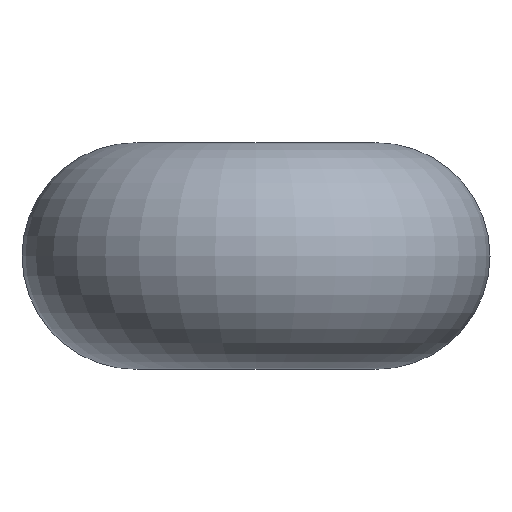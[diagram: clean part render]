
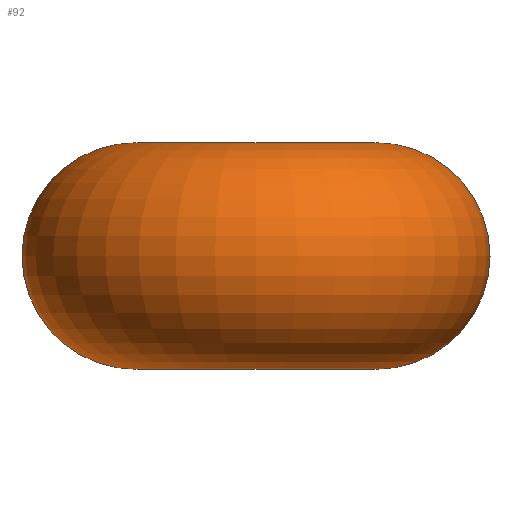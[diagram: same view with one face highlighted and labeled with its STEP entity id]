
A CAD part, left-side view. The second image highlights one B-rep face of the part: STEP entity #92.
In plain terms, the highlighted toroidal (fillet/blend) face has major radius 4 mm and minor radius 3.75 mm.
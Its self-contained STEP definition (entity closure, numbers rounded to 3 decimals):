
#19 = VERTEX_POINT ( 'NONE', #152 ) ;
#62 = EDGE_CURVE ( 'NONE', #19, #65, #286, .T. ) ;
#64 = EDGE_CURVE ( 'NONE', #65, #66, #277, .T. ) ;
#65 = VERTEX_POINT ( 'NONE', #272 ) ;
#66 = VERTEX_POINT ( 'NONE', #271 ) ;
#86 = VERTEX_POINT ( 'NONE', #329 ) ;
#88 = EDGE_CURVE ( 'NONE', #86, #66, #327, .T. ) ;
#91 = EDGE_CURVE ( 'NONE', #96, #19, #420, .T. ) ;
#92 = ADVANCED_FACE ( 'NONE', ( #421 ), #416, .T. ) ;
#93 = EDGE_LOOP ( 'NONE', ( #140, #141, #142, #143, #144, #145 ) ) ;
#95 = EDGE_CURVE ( 'NONE', #96, #97, #411, .T. ) ;
#96 = VERTEX_POINT ( 'NONE', #406 ) ;
#97 = VERTEX_POINT ( 'NONE', #405 ) ;
#140 = ORIENTED_EDGE ( 'NONE', *, *, #95, .F. ) ;
#141 = ORIENTED_EDGE ( 'NONE', *, *, #91, .T. ) ;
#142 = ORIENTED_EDGE ( 'NONE', *, *, #62, .T. ) ;
#143 = ORIENTED_EDGE ( 'NONE', *, *, #64, .T. ) ;
#144 = ORIENTED_EDGE ( 'NONE', *, *, #88, .F. ) ;
#145 = ORIENTED_EDGE ( 'NONE', *, *, #146, .F. ) ;
#146 = EDGE_CURVE ( 'NONE', #97, #86, #381, .T. ) ;
#152 = CARTESIAN_POINT ( 'NONE',  ( 3.074, -2.559, -3.75 ) ) ;
#271 = CARTESIAN_POINT ( 'NONE',  ( 3.074, -2.559, 3.75 ) ) ;
#272 = CARTESIAN_POINT ( 'NONE',  ( 5.957, -4.958, 0. ) ) ;
#273 = DIRECTION ( 'NONE',  ( 0., 0., -1. ) ) ;
#274 = DIRECTION ( 'NONE',  ( -0.64, -0.769, 0. ) ) ;
#275 = CARTESIAN_POINT ( 'NONE',  ( 3.074, -2.559, 0. ) ) ;
#276 = AXIS2_PLACEMENT_3D ( 'NONE', #275, #274, #273 ) ;
#277 = CIRCLE ( 'NONE', #276, 3.75 ) ;
#278 = DIRECTION ( 'NONE',  ( 0., 0., -1. ) ) ;
#279 = DIRECTION ( 'NONE',  ( -0.64, -0.769, 0. ) ) ;
#280 = CARTESIAN_POINT ( 'NONE',  ( 3.074, -2.559, 0. ) ) ;
#286 = CIRCLE ( 'NONE', #290, 3.75 ) ;
#290 = AXIS2_PLACEMENT_3D ( 'NONE', #280, #279, #278 ) ;
#324 = DIRECTION ( 'NONE',  ( 0., 0., 1. ) ) ;
#325 = CARTESIAN_POINT ( 'NONE',  ( 0., 0., 3.75 ) ) ;
#326 = AXIS2_PLACEMENT_3D ( 'NONE', #325, #324, #422 ) ;
#327 = CIRCLE ( 'NONE', #326, 4. ) ;
#328 = CARTESIAN_POINT ( 'NONE',  ( 0., 0., -3.75 ) ) ;
#329 = CARTESIAN_POINT ( 'NONE',  ( 3.074, 2.559, 3.75 ) ) ;
#377 = DIRECTION ( 'NONE',  ( 0., 0., -1. ) ) ;
#378 = DIRECTION ( 'NONE',  ( 0.64, -0.769, 0. ) ) ;
#379 = CARTESIAN_POINT ( 'NONE',  ( 3.074, 2.559, 0. ) ) ;
#380 = AXIS2_PLACEMENT_3D ( 'NONE', #379, #378, #377 ) ;
#381 = CIRCLE ( 'NONE', #380, 3.75 ) ;
#405 = CARTESIAN_POINT ( 'NONE',  ( 5.957, 4.958, 0. ) ) ;
#406 = CARTESIAN_POINT ( 'NONE',  ( 3.074, 2.559, -3.75 ) ) ;
#407 = DIRECTION ( 'NONE',  ( 0., 0., -1. ) ) ;
#408 = DIRECTION ( 'NONE',  ( 0.64, -0.769, 0. ) ) ;
#409 = CARTESIAN_POINT ( 'NONE',  ( 3.074, 2.559, 0. ) ) ;
#410 = AXIS2_PLACEMENT_3D ( 'NONE', #409, #408, #407 ) ;
#411 = CIRCLE ( 'NONE', #410, 3.75 ) ;
#412 = DIRECTION ( 'NONE',  ( 1., 0., 0. ) ) ;
#413 = DIRECTION ( 'NONE',  ( 0., 0., 1. ) ) ;
#414 = CARTESIAN_POINT ( 'NONE',  ( 0., 0., 0. ) ) ;
#415 = AXIS2_PLACEMENT_3D ( 'NONE', #414, #413, #412 ) ;
#416 = TOROIDAL_SURFACE ( 'NONE', #415, 4., 3.75 ) ;
#417 = DIRECTION ( 'NONE',  ( 1., 0., 0. ) ) ;
#418 = DIRECTION ( 'NONE',  ( 0., 0., 1. ) ) ;
#419 = AXIS2_PLACEMENT_3D ( 'NONE', #328, #418, #417 ) ;
#420 = CIRCLE ( 'NONE', #419, 4. ) ;
#421 = FACE_OUTER_BOUND ( 'NONE', #93, .T. ) ;
#422 = DIRECTION ( 'NONE',  ( 1., 0., 0. ) ) ;
